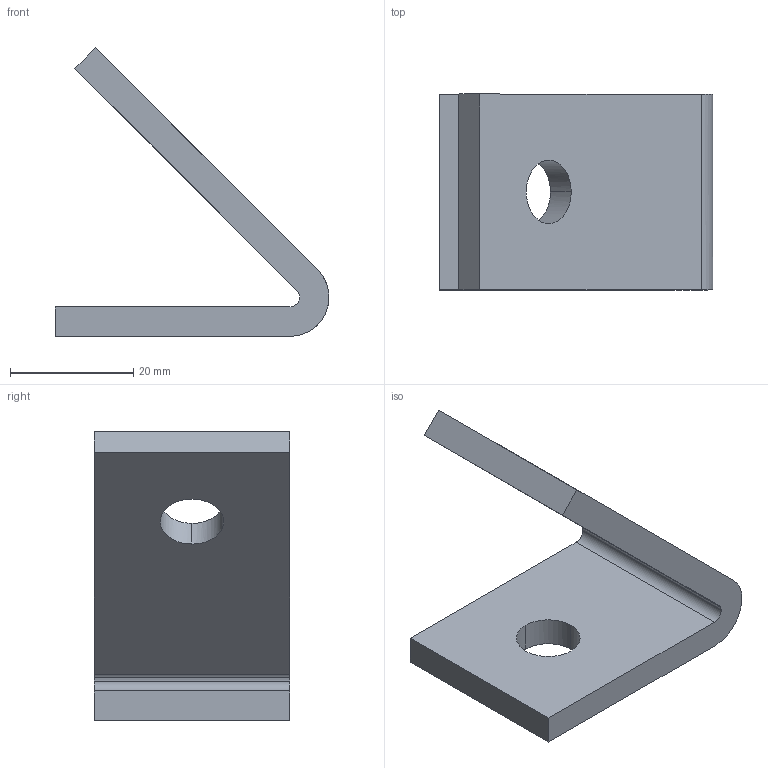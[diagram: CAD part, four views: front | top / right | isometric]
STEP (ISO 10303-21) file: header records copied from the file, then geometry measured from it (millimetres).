
FILE_DESCRIPTION(('TurboCAD Mac Pro'),'Build 980');
FILE_NAME('A2110.stp',' ',(''),(''),'ACIS Interop','IMSI','TurboCAD Mac Pro BY IMSI, INCORPORATED');
FILE_SCHEMA(('automotive_design'));
Length unit declared in the file: inch
Products named in the file (1): 1
Bounding box: 44.45 x 31.75 x 46.85 mm (x, y, z)
Volume: 14071.4 mm3; surface area: 7460.5 mm2
Topology: 1 solids, 1 shells, 21 faces, 57 edges, 38 vertices
Faces by surface type: bspline 13, plane 8
Entity records: 979 total; most frequent: CARTESIAN_POINT 323, ORIENTED_EDGE 114, DIRECTION 59, EDGE_CURVE 57, VERTEX_POINT 38, LINE 31, VECTOR 31, EDGE_LOOP 25
